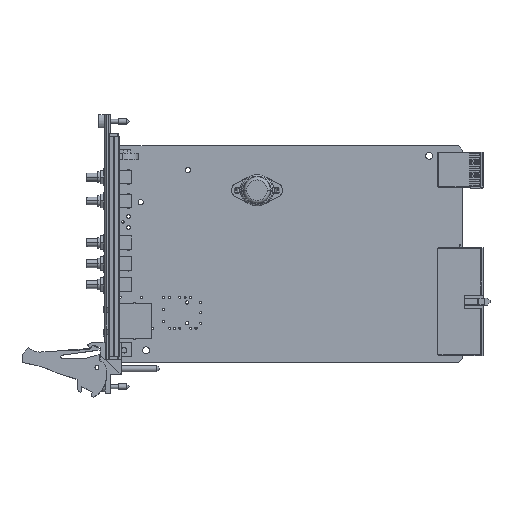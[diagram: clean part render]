
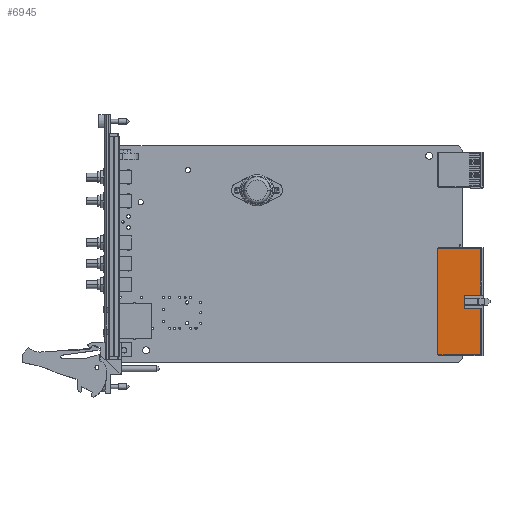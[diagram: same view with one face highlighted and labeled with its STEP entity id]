
A CAD part, top view. The second image highlights one B-rep face of the part: STEP entity #6945.
In plain terms, the highlighted planar face has unit normal (0, 0, 1).
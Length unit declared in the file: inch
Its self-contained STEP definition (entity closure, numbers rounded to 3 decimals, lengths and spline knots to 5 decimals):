
#5294=DIRECTION('',(1.,0.,0.));
#5295=VECTOR('',#5294,0.77756);
#5296=CARTESIAN_POINT('',(5.84533,-1.87055,
0.35728));
#5297=LINE('',#5296,#5295);
#5306=DIRECTION('',(-1.,0.,0.));
#5307=VECTOR('',#5306,0.30315);
#5308=CARTESIAN_POINT('',(6.62289,-2.71512,
0.35728));
#5309=LINE('',#5308,#5307);
#5310=DIRECTION('',(0.,-1.,0.));
#5311=VECTOR('',#5310,0.06);
#5312=CARTESIAN_POINT('',(6.31974,-2.71512,
0.35728));
#5313=LINE('',#5312,#5311);
#5314=DIRECTION('',(0.,-1.,0.));
#5315=VECTOR('',#5314,0.12);
#5316=CARTESIAN_POINT('',(6.31974,-2.77512,
0.35728));
#5317=LINE('',#5316,#5315);
#5318=DIRECTION('',(0.,-1.,0.));
#5319=VECTOR('',#5318,0.06);
#5320=CARTESIAN_POINT('',(6.31974,-2.89512,
0.35728));
#5321=LINE('',#5320,#5319);
#5322=DIRECTION('',(-1.,0.,0.));
#5323=VECTOR('',#5322,0.30315);
#5324=CARTESIAN_POINT('',(6.62289,-2.95512,
0.35728));
#5325=LINE('',#5324,#5323);
#5326=DIRECTION('',(0.,-1.,0.));
#5327=VECTOR('',#5326,0.84457);
#5328=CARTESIAN_POINT('',(6.62289,-2.95512,
0.35728));
#5329=LINE('',#5328,#5327);
#5330=DIRECTION('',(-1.,0.,0.));
#5331=VECTOR('',#5330,0.77756);
#5332=CARTESIAN_POINT('',(6.62289,-3.79969,
0.35728));
#5333=LINE('',#5332,#5331);
#5334=DIRECTION('',(0.,1.,0.));
#5335=VECTOR('',#5334,1.92913);
#5336=CARTESIAN_POINT('',(5.84533,-3.79969,
0.35728));
#5337=LINE('',#5336,#5335);
#5338=DIRECTION('',(0.,-1.,0.));
#5339=VECTOR('',#5338,0.84457);
#5340=CARTESIAN_POINT('',(6.62289,-1.87055,
0.35728));
#5341=LINE('',#5340,#5339);
#5694=CARTESIAN_POINT('',(5.84533,-3.79969,
0.35728));
#5696=VERTEX_POINT('',#5694);
#5697=CARTESIAN_POINT('',(6.62289,-3.79969,
0.35728));
#5698=VERTEX_POINT('',#5697);
#5700=CARTESIAN_POINT('',(5.84533,-1.87055,
0.35728));
#5702=VERTEX_POINT('',#5700);
#5703=CARTESIAN_POINT('',(6.62289,-1.87055,
0.35728));
#5704=VERTEX_POINT('',#5703);
#5717=CARTESIAN_POINT('',(6.62289,-2.71512,
0.35728));
#5718=CARTESIAN_POINT('',(6.31974,-2.71512,
0.35728));
#5719=VERTEX_POINT('',#5717);
#5720=VERTEX_POINT('',#5718);
#5721=CARTESIAN_POINT('',(6.31974,-2.77512,
0.35728));
#5722=VERTEX_POINT('',#5721);
#5723=CARTESIAN_POINT('',(6.62289,-2.95512,
0.35728));
#5724=CARTESIAN_POINT('',(6.31974,-2.95512,
0.35728));
#5725=VERTEX_POINT('',#5723);
#5726=VERTEX_POINT('',#5724);
#5727=CARTESIAN_POINT('',(6.31974,-2.89512,
0.35728));
#5728=VERTEX_POINT('',#5727);
#6921=CARTESIAN_POINT('',(5.84533,-3.79969,
0.35728));
#6922=DIRECTION('',(0.,0.,1.));
#6923=DIRECTION('',(1.,0.,0.));
#6924=AXIS2_PLACEMENT_3D('',#6921,#6922,#6923);
#6925=PLANE('',#6924);
#6927=ORIENTED_EDGE('',*,*,#6926,.T.);
#6929=ORIENTED_EDGE('',*,*,#6928,.T.);
#6931=ORIENTED_EDGE('',*,*,#6930,.T.);
#6933=ORIENTED_EDGE('',*,*,#6932,.T.);
#6934=ORIENTED_EDGE('',*,*,#6288,.F.);
#6936=ORIENTED_EDGE('',*,*,#6935,.T.);
#6938=ORIENTED_EDGE('',*,*,#6937,.T.);
#6939=ORIENTED_EDGE('',*,*,#6894,.T.);
#6940=ORIENTED_EDGE('',*,*,#6914,.T.);
#6942=ORIENTED_EDGE('',*,*,#6941,.T.);
#6943=EDGE_LOOP('',(#6927,#6929,#6931,#6933,#6934,#6936,#6938,#6939,#6940,
#6942));
#6944=FACE_OUTER_BOUND('',#6943,.F.);
#6945=ADVANCED_FACE('',(#6944),#6925,.T.);
#6288=EDGE_CURVE('',#5725,#5726,#5325,.T.);
#6894=EDGE_CURVE('',#5696,#5702,#5337,.T.);
#6914=EDGE_CURVE('',#5702,#5704,#5297,.T.);
#6926=EDGE_CURVE('',#5719,#5720,#5309,.T.);
#6928=EDGE_CURVE('',#5720,#5722,#5313,.T.);
#6930=EDGE_CURVE('',#5722,#5728,#5317,.T.);
#6932=EDGE_CURVE('',#5728,#5726,#5321,.T.);
#6935=EDGE_CURVE('',#5725,#5698,#5329,.T.);
#6937=EDGE_CURVE('',#5698,#5696,#5333,.T.);
#6941=EDGE_CURVE('',#5704,#5719,#5341,.T.);
